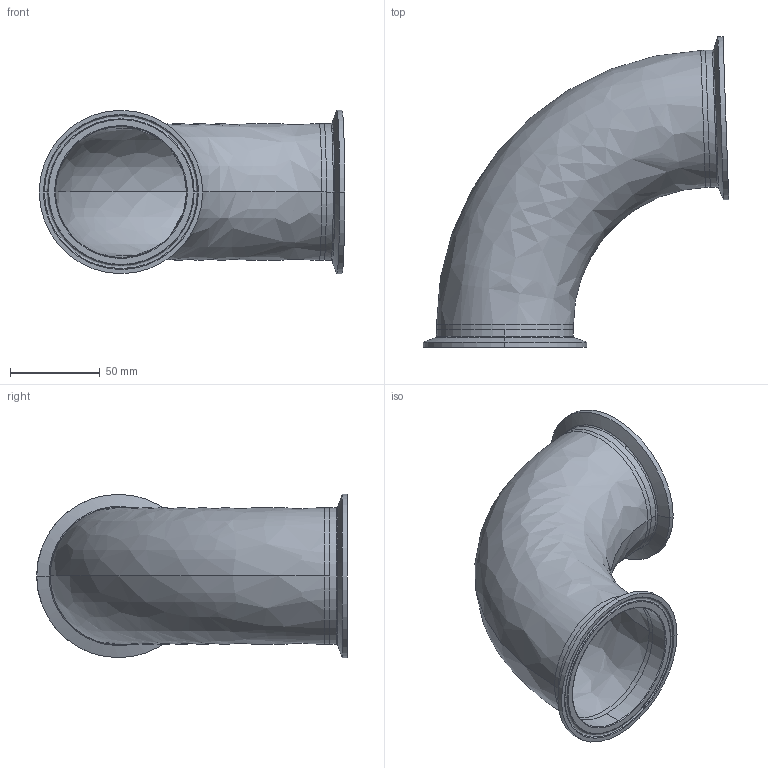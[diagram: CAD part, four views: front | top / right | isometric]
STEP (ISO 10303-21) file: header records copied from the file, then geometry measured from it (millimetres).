
FILE_DESCRIPTION (( 'STEP AP214' ), '1' );
FILE_NAME ('TEG2C886L3.0-...STEP', '2016-05-22T09:24:34', ( 'eran' ), ( '' ), 'SwSTEP 2.0', 'SolidWorks 2016', '' );
FILE_SCHEMA (( 'AUTOMOTIVE_DESIGN' ));
Length unit declared in the file: millimetre
Products named in the file (1): TEG2C886L3.0-..
Bounding box: 169.98 x 172.94 x 90.91 mm (x, y, z)
Volume: 93021.4 mm3; surface area: 103565.5 mm2
Topology: 3 solids, 3 shells, 64 faces, 156 edges, 100 vertices
Faces by surface type: bspline 24, cylinder 20, cone 12, plane 8
Entity records: 3295 total; most frequent: CARTESIAN_POINT 1739, DIRECTION 338, ORIENTED_EDGE 312, EDGE_CURVE 156, AXIS2_PLACEMENT_3D 153, CIRCLE 112, VERTEX_POINT 100, EDGE_LOOP 72
